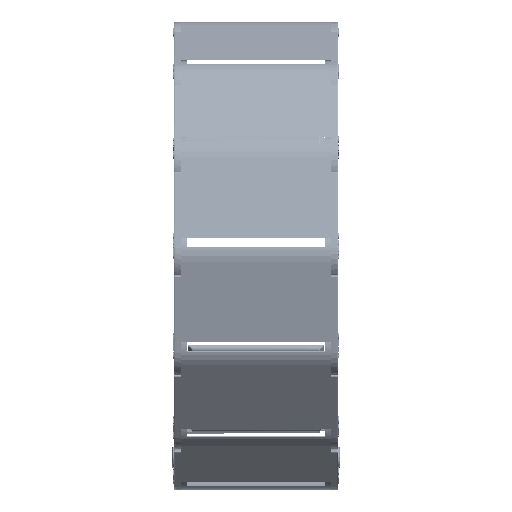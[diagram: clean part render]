
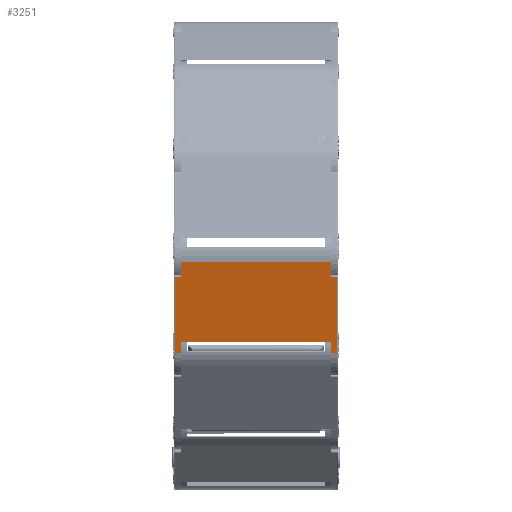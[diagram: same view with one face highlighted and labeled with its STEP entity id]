
A CAD part, top view. The second image highlights one B-rep face of the part: STEP entity #3251.
In plain terms, the highlighted planar face has unit normal (0, -0.218, 0.976) as drawn and (0, -1, 0) by its records, which use the part's own axes.
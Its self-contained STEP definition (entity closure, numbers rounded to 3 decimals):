
#233 = VECTOR ( 'NONE', #21326, 1000. ) ;
#366 = VERTEX_POINT ( 'NONE', #14856 ) ;
#402 = VERTEX_POINT ( 'NONE', #22146 ) ;
#441 = EDGE_CURVE ( 'NONE', #8606, #3728, #10033, .T. ) ;
#494 = CARTESIAN_POINT ( 'NONE',  ( 164.787, -77.815, 12.133 ) ) ;
#1341 = VECTOR ( 'NONE', #18643, 1000. ) ;
#1885 = EDGE_CURVE ( 'NONE', #9985, #402, #11254, .T. ) ;
#1951 = VECTOR ( 'NONE', #21912, 1000. ) ;
#2015 = CARTESIAN_POINT ( 'NONE',  ( 164.787, -77.815, 6.336 ) ) ;
#2334 = VECTOR ( 'NONE', #11300, 1000. ) ;
#2431 = EDGE_CURVE ( 'NONE', #14643, #366, #2896, .T. ) ;
#2474 = CARTESIAN_POINT ( 'NONE',  ( 164.737, -77.815, 6.336 ) ) ;
#2559 = ORIENTED_EDGE ( 'NONE', *, *, #19360, .F. ) ;
#2760 = CARTESIAN_POINT ( 'NONE',  ( 162.312, -77.815, -21.805 ) ) ;
#2896 = LINE ( 'NONE', #20138, #2334 ) ;
#3010 = VECTOR ( 'NONE', #7868, 1000. ) ;
#3251 = ADVANCED_FACE ( 'NONE', ( #9859 ), #20277, .F. ) ;
#3526 = VERTEX_POINT ( 'NONE', #2015 ) ;
#3559 = VECTOR ( 'NONE', #9484, 1000. ) ;
#3728 = VERTEX_POINT ( 'NONE', #4431 ) ;
#3924 = VECTOR ( 'NONE', #6684, 1000. ) ;
#4091 = CARTESIAN_POINT ( 'NONE',  ( 164.737, -77.815, -17.794 ) ) ;
#4115 = DIRECTION ( 'NONE',  ( 1., 0., 0. ) ) ;
#4160 = LINE ( 'NONE', #18291, #13043 ) ;
#4342 = CARTESIAN_POINT ( 'NONE',  ( 221.708, -77.815, -21.805 ) ) ;
#4431 = CARTESIAN_POINT ( 'NONE',  ( 164.737, -77.815, -21.805 ) ) ;
#4966 = LINE ( 'NONE', #8869, #233 ) ;
#5207 = CARTESIAN_POINT ( 'NONE',  ( 162.615, -77.815, 6.336 ) ) ;
#5402 = ORIENTED_EDGE ( 'NONE', *, *, #18076, .F. ) ;
#5928 = EDGE_CURVE ( 'NONE', #16806, #10374, #22790, .T. ) ;
#5974 = ORIENTED_EDGE ( 'NONE', *, *, #22252, .F. ) ;
#5978 = VECTOR ( 'NONE', #22188, 1000. ) ;
#6062 = CARTESIAN_POINT ( 'NONE',  ( 219.536, -77.815, 12.133 ) ) ;
#6159 = AXIS2_PLACEMENT_3D ( 'NONE', #9671, #22044, #11436 ) ;
#6211 = ORIENTED_EDGE ( 'NONE', *, *, #17922, .T. ) ;
#6528 = DIRECTION ( 'NONE',  ( 0., 0., 1. ) ) ;
#6684 = DIRECTION ( 'NONE',  ( -1., 0., 0. ) ) ;
#7868 = DIRECTION ( 'NONE',  ( 0., 0., -1. ) ) ;
#7898 = VERTEX_POINT ( 'NONE', #4342 ) ;
#8047 = CARTESIAN_POINT ( 'NONE',  ( 175.021, -77.815, 6.336 ) ) ;
#8561 = DIRECTION ( 'NONE',  ( 0., 0., 1. ) ) ;
#8606 = VERTEX_POINT ( 'NONE', #10308 ) ;
#8869 = CARTESIAN_POINT ( 'NONE',  ( 162.312, -77.815, 6.336 ) ) ;
#9384 = ORIENTED_EDGE ( 'NONE', *, *, #1885, .F. ) ;
#9484 = DIRECTION ( 'NONE',  ( 0., 0., -1. ) ) ;
#9671 = CARTESIAN_POINT ( 'NONE',  ( 175.312, -77.815, 6.336 ) ) ;
#9859 = FACE_OUTER_BOUND ( 'NONE', #11269, .T. ) ;
#9913 = CARTESIAN_POINT ( 'NONE',  ( 162.615, -77.815, 6.336 ) ) ;
#9985 = VERTEX_POINT ( 'NONE', #18810 ) ;
#10033 = LINE ( 'NONE', #2760, #19420 ) ;
#10308 = CARTESIAN_POINT ( 'NONE',  ( 162.615, -77.815, -21.805 ) ) ;
#10374 = VERTEX_POINT ( 'NONE', #4091 ) ;
#10828 = VECTOR ( 'NONE', #6528, 1000. ) ;
#11201 = CARTESIAN_POINT ( 'NONE',  ( 219.586, -77.815, -21.805 ) ) ;
#11254 = LINE ( 'NONE', #8047, #5978 ) ;
#11269 = EDGE_LOOP ( 'NONE', ( #22360, #22098, #22032, #6211, #17256, #9384, #2559, #12325, #5402, #5974, #16732, #14362 ) ) ;
#11300 = DIRECTION ( 'NONE',  ( 1., 0., 0. ) ) ;
#11413 = LINE ( 'NONE', #22062, #1951 ) ;
#11436 = DIRECTION ( 'NONE',  ( 0., 0., 1. ) ) ;
#12023 = VERTEX_POINT ( 'NONE', #11201 ) ;
#12325 = ORIENTED_EDGE ( 'NONE', *, *, #2431, .F. ) ;
#12437 = LINE ( 'NONE', #6062, #3010 ) ;
#13043 = VECTOR ( 'NONE', #4115, 1000. ) ;
#13262 = CARTESIAN_POINT ( 'NONE',  ( 219.586, -77.815, -17.794 ) ) ;
#13406 = DIRECTION ( 'NONE',  ( 1., 0., 0. ) ) ;
#14362 = ORIENTED_EDGE ( 'NONE', *, *, #441, .T. ) ;
#14643 = VERTEX_POINT ( 'NONE', #494 ) ;
#14856 = CARTESIAN_POINT ( 'NONE',  ( 219.536, -77.815, 12.133 ) ) ;
#14944 = LINE ( 'NONE', #20930, #18567 ) ;
#15505 = LINE ( 'NONE', #20702, #10828 ) ;
#16039 = LINE ( 'NONE', #9913, #1341 ) ;
#16732 = ORIENTED_EDGE ( 'NONE', *, *, #22883, .F. ) ;
#16806 = VERTEX_POINT ( 'NONE', #13262 ) ;
#17125 = LINE ( 'NONE', #2474, #3559 ) ;
#17256 = ORIENTED_EDGE ( 'NONE', *, *, #20793, .F. ) ;
#17922 = EDGE_CURVE ( 'NONE', #12023, #7898, #4160, .T. ) ;
#18076 = EDGE_CURVE ( 'NONE', #3526, #14643, #15505, .T. ) ;
#18158 = EDGE_CURVE ( 'NONE', #12023, #16806, #14944, .T. ) ;
#18291 = CARTESIAN_POINT ( 'NONE',  ( 175.312, -77.815, -21.805 ) ) ;
#18567 = VECTOR ( 'NONE', #8561, 1000. ) ;
#18643 = DIRECTION ( 'NONE',  ( 0., 0., 1. ) ) ;
#18810 = CARTESIAN_POINT ( 'NONE',  ( 219.536, -77.815, 6.336 ) ) ;
#19066 = CARTESIAN_POINT ( 'NONE',  ( 175.312, -77.815, -17.794 ) ) ;
#19358 = EDGE_CURVE ( 'NONE', #10374, #3728, #17125, .T. ) ;
#19360 = EDGE_CURVE ( 'NONE', #366, #9985, #12437, .T. ) ;
#19420 = VECTOR ( 'NONE', #13406, 1000. ) ;
#20138 = CARTESIAN_POINT ( 'NONE',  ( 175.312, -77.815, 12.133 ) ) ;
#20277 = PLANE ( 'NONE',  #6159 ) ;
#20702 = CARTESIAN_POINT ( 'NONE',  ( 164.787, -77.815, 6.336 ) ) ;
#20793 = EDGE_CURVE ( 'NONE', #402, #7898, #11413, .T. ) ;
#20930 = CARTESIAN_POINT ( 'NONE',  ( 219.586, -77.815, 6.336 ) ) ;
#21326 = DIRECTION ( 'NONE',  ( 1., 0., 0. ) ) ;
#21912 = DIRECTION ( 'NONE',  ( 0., 0., -1. ) ) ;
#22032 = ORIENTED_EDGE ( 'NONE', *, *, #18158, .F. ) ;
#22044 = DIRECTION ( 'NONE',  ( 0., 1., 0. ) ) ;
#22062 = CARTESIAN_POINT ( 'NONE',  ( 221.708, -77.815, 6.336 ) ) ;
#22074 = VERTEX_POINT ( 'NONE', #5207 ) ;
#22098 = ORIENTED_EDGE ( 'NONE', *, *, #5928, .F. ) ;
#22146 = CARTESIAN_POINT ( 'NONE',  ( 221.708, -77.815, 6.336 ) ) ;
#22188 = DIRECTION ( 'NONE',  ( 1., 0., 0. ) ) ;
#22252 = EDGE_CURVE ( 'NONE', #22074, #3526, #4966, .T. ) ;
#22360 = ORIENTED_EDGE ( 'NONE', *, *, #19358, .F. ) ;
#22790 = LINE ( 'NONE', #19066, #3924 ) ;
#22883 = EDGE_CURVE ( 'NONE', #8606, #22074, #16039, .T. ) ;
